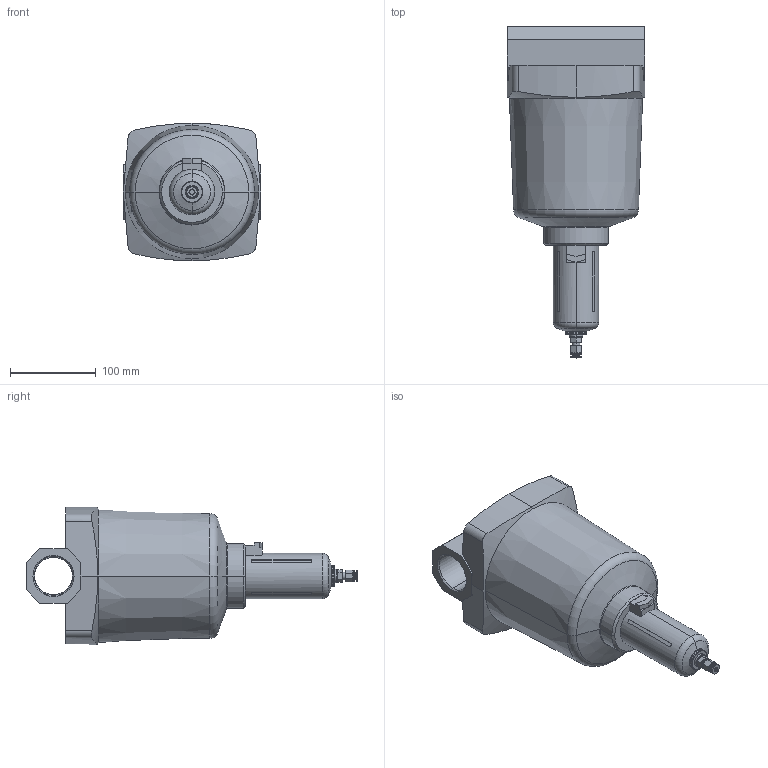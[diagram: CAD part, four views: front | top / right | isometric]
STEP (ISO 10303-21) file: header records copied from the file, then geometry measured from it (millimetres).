
FILE_DESCRIPTION (( 'STEP AP203' ), '1' );
FILE_NAME ('FSO650-14D.STEP', '2021-09-22T11:29:28', ( '' ), ( '' ), 'SwSTEP 2.0', 'SolidWorks 2019', '' );
FILE_SCHEMA (( 'CONFIG_CONTROL_DESIGN' ));
Length unit declared in the file: millimetre
Products named in the file (1): FSO650-14D
Bounding box: 160 x 386.5 x 160 mm (x, y, z)
Volume: 3913501.3 mm3; surface area: 193741.8 mm2
Topology: 1 solids, 1 shells, 338 faces, 760 edges, 451 vertices
Faces by surface type: cylinder 134, cone 104, plane 92, torus 8
Entity records: 12126 total; most frequent: CARTESIAN_POINT 4601, DIRECTION 1591, ORIENTED_EDGE 1520, EDGE_CURVE 760, AXIS2_PLACEMENT_3D 637, VERTEX_POINT 451, EDGE_LOOP 367, ADVANCED_FACE 338
